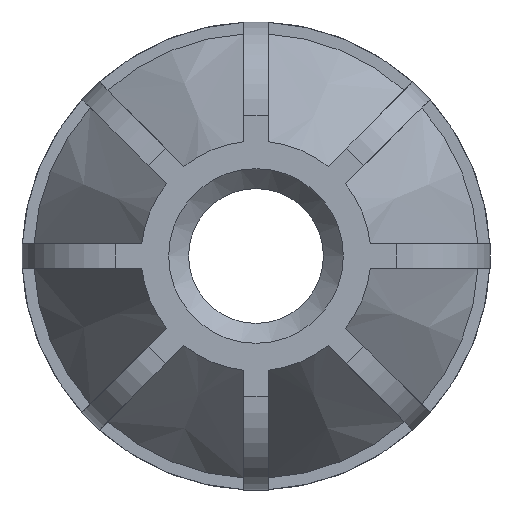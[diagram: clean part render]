
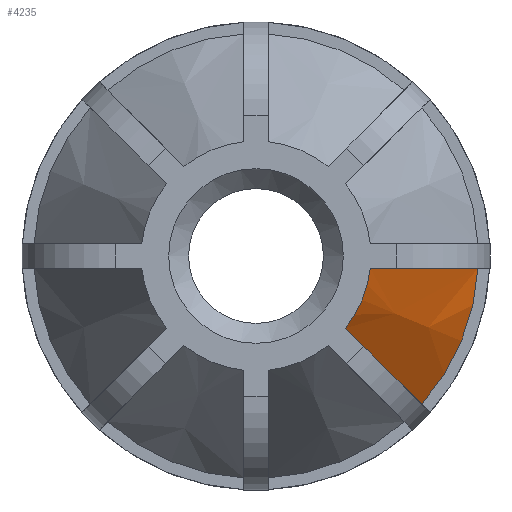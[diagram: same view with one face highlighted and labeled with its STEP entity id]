
A CAD part, left-side view. The second image highlights one B-rep face of the part: STEP entity #4235.
In plain terms, the highlighted conical face has half-angle 31.948 degrees and reference radius 29.92 mm.
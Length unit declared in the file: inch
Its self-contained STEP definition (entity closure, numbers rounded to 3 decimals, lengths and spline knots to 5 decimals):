
#37=CONICAL_SURFACE('',#4553,1.17797,0.558);
#128=(
BOUNDED_CURVE()
B_SPLINE_CURVE(2,(#6795,#6796,#6797),.UNSPECIFIED.,.F.,.F.)
B_SPLINE_CURVE_WITH_KNOTS((3,3),(0.,3.60582),.UNSPECIFIED.)
CURVE()
GEOMETRIC_REPRESENTATION_ITEM()
RATIONAL_B_SPLINE_CURVE((1.,1.055,1.))
REPRESENTATION_ITEM('')
);
#137=(
BOUNDED_CURVE()
B_SPLINE_CURVE(2,(#6975,#6976,#6977),.UNSPECIFIED.,.F.,.F.)
B_SPLINE_CURVE_WITH_KNOTS((3,3),(0.,3.60582),.UNSPECIFIED.)
CURVE()
GEOMETRIC_REPRESENTATION_ITEM()
RATIONAL_B_SPLINE_CURVE((1.,1.055,1.))
REPRESENTATION_ITEM('')
);
#384=FACE_OUTER_BOUND('',#592,.T.);
#592=EDGE_LOOP('',(#3229,#3230,#3231,#3232));
#1446=CIRCLE('',#4549,0.80269);
#1450=CIRCLE('',#4554,1.55325);
#1770=VERTEX_POINT('',#6792);
#1771=VERTEX_POINT('',#6794);
#1821=VERTEX_POINT('',#6962);
#1825=VERTEX_POINT('',#6973);
#2275=EDGE_CURVE('',#1771,#1770,#128,.T.);
#2353=EDGE_CURVE('',#1821,#1771,#1446,.T.);
#2359=EDGE_CURVE('',#1825,#1770,#1450,.T.);
#2360=EDGE_CURVE('',#1825,#1821,#137,.T.);
#3229=ORIENTED_EDGE('',*,*,#2275,.T.);
#3230=ORIENTED_EDGE('',*,*,#2359,.F.);
#3231=ORIENTED_EDGE('',*,*,#2360,.T.);
#3232=ORIENTED_EDGE('',*,*,#2353,.T.);
#4235=ADVANCED_FACE('',(#384),#37,.T.);
#4549=AXIS2_PLACEMENT_3D('',#6963,#5355,#5356);
#4553=AXIS2_PLACEMENT_3D('',#6972,#5365,#5366);
#4554=AXIS2_PLACEMENT_3D('',#6974,#5367,#5368);
#5355=DIRECTION('center_axis',(1.,0.,0.));
#5356=DIRECTION('ref_axis',(0.,0.,-1.));
#5365=DIRECTION('center_axis',(1.,0.,0.));
#5366=DIRECTION('ref_axis',(0.,1.,0.));
#5367=DIRECTION('center_axis',(1.,0.,0.));
#5368=DIRECTION('ref_axis',(0.,0.,-1.));
#6792=CARTESIAN_POINT('',(-3.0504,-1.15691,-1.03641));
#6794=CARTESIAN_POINT('',(-4.254,-0.62462,-0.50413));
#6795=CARTESIAN_POINT('Ctrl Pts',(-4.254,-0.62462,-0.50413));
#6796=CARTESIAN_POINT('Ctrl Pts',(-3.84505,-0.80598,-0.68549));
#6797=CARTESIAN_POINT('Ctrl Pts',(-3.0504,-1.15691,-1.03641));
#6962=CARTESIAN_POINT('',(-4.254,-0.79815,-0.0852));
#6963=CARTESIAN_POINT('Origin',(-4.254,0.,0.));
#6972=CARTESIAN_POINT('Origin',(-3.6522,0.,0.));
#6973=CARTESIAN_POINT('',(-3.0504,-1.55091,-0.0852));
#6974=CARTESIAN_POINT('Origin',(-3.0504,0.,0.));
#6975=CARTESIAN_POINT('Ctrl Pts',(-3.0504,-1.55091,-0.0852));
#6976=CARTESIAN_POINT('Ctrl Pts',(-3.84505,-1.05462,-0.0852));
#6977=CARTESIAN_POINT('Ctrl Pts',(-4.254,-0.79815,-0.0852));
